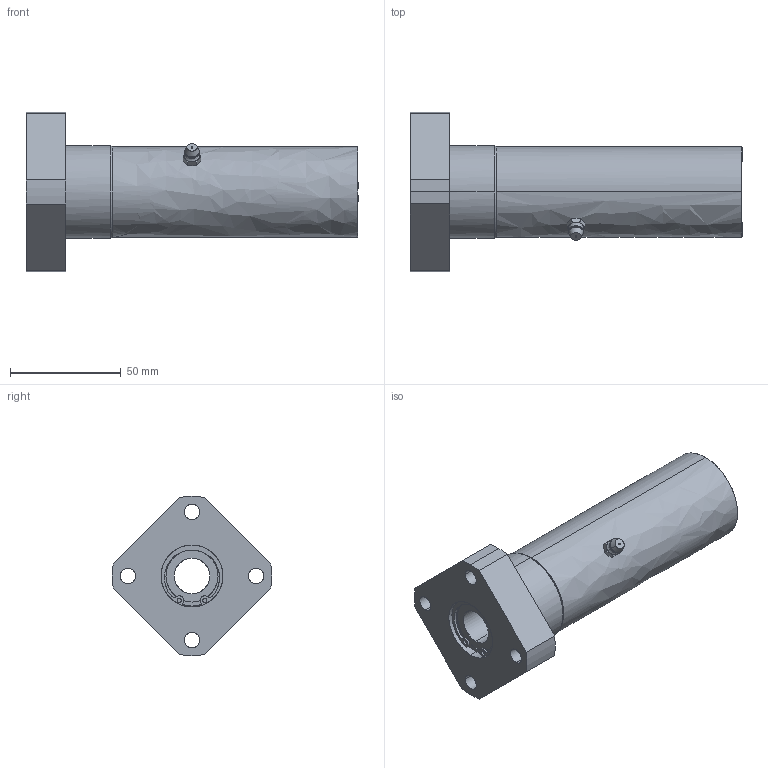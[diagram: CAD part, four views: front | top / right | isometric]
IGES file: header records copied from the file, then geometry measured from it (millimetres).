
Global section: file name: No Iges File Name specified; native system: AutoDesk Inventor R10; preprocessor: AutoDesk Inventor Iges Exporter R10; author: No Author specified; organization: No Organization specified; date: 20101214.140529; units: millimetre
Bounding box: 150 x 71.91 x 72 mm (x, y, z)
Surface area: 39566.5 mm2 (no closed solid volume)
Topology: 0 solids, 0 shells, 159 faces, 1097 edges, 1095 vertices
Faces by surface type: bspline 159
